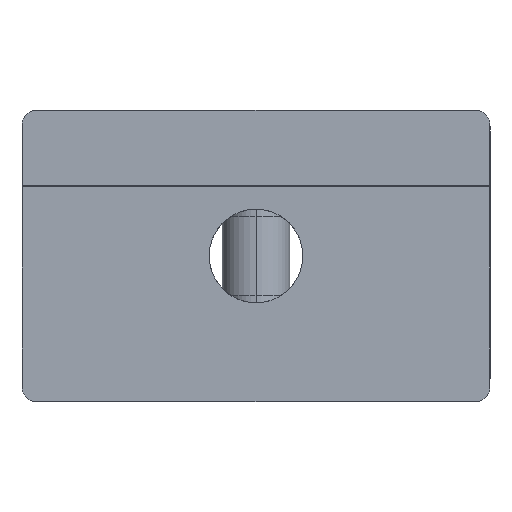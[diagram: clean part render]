
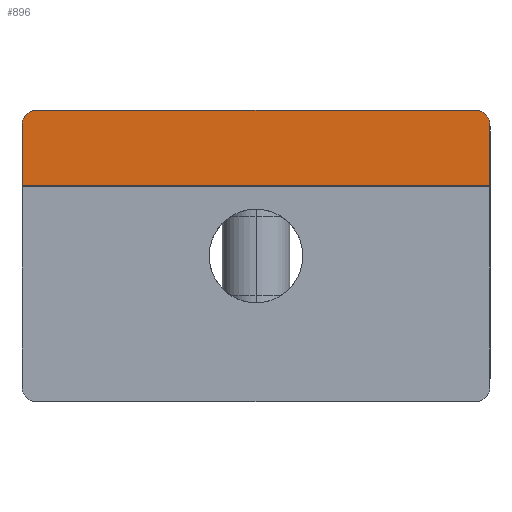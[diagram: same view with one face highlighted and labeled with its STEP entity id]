
A CAD part, left-side view. The second image highlights one B-rep face of the part: STEP entity #896.
In plain terms, the highlighted cylindrical face has radius 500000 mm (diameter 1e+06 mm), a partial arc.
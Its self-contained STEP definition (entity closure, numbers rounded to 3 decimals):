
#9 = EDGE_CURVE ( 'NONE', #1077, #1266, #2268, .T. ) ;
#34 = ORIENTED_EDGE ( 'NONE', *, *, #2528, .F. ) ;
#67 = CARTESIAN_POINT ( 'NONE',  ( -63., 21.362, 14. ) ) ;
#249 = ORIENTED_EDGE ( 'NONE', *, *, #1387, .F. ) ;
#277 = CARTESIAN_POINT ( 'NONE',  ( -63., -22.5, 12.544 ) ) ;
#412 = EDGE_CURVE ( 'NONE', #1159, #489, #3442, .T. ) ;
#488 = DIRECTION ( 'NONE',  ( 0., 0., 1. ) ) ;
#489 = VERTEX_POINT ( 'NONE', #3537 ) ;
#516 = DIRECTION ( 'NONE',  ( 0., -1., 0. ) ) ;
#596 = AXIS2_PLACEMENT_3D ( 'NONE', #1358, #516, #3579 ) ;
#671 = CARTESIAN_POINT ( 'NONE',  ( -63., -21.687, 13.919 ) ) ;
#689 = CARTESIAN_POINT ( 'NONE',  ( -63., -21.362, 14. ) ) ;
#714 = VECTOR ( 'NONE', #2981, 1000. ) ;
#743 = ORIENTED_EDGE ( 'NONE', *, *, #1014, .T. ) ;
#747 = LINE ( 'NONE', #3295, #3032 ) ;
#848 = CARTESIAN_POINT ( 'NONE',  ( -63., 22.5, 12.879 ) ) ;
#866 = CARTESIAN_POINT ( 'NONE',  ( -63., 21.957, 13.712 ) ) ;
#896 = ADVANCED_FACE ( 'NONE', ( #2673 ), #1289, .F. ) ;
#1014 = EDGE_CURVE ( 'NONE', #489, #1077, #747, .T. ) ;
#1077 = VERTEX_POINT ( 'NONE', #3497 ) ;
#1093 = VERTEX_POINT ( 'NONE', #2678 ) ;
#1111 = AXIS2_PLACEMENT_3D ( 'NONE', #3114, #1132, #3370 ) ;
#1132 = DIRECTION ( 'NONE',  ( 0., 1., 0. ) ) ;
#1159 = VERTEX_POINT ( 'NONE', #277 ) ;
#1198 = CARTESIAN_POINT ( 'NONE',  ( -63., -22.473, 12.875 ) ) ;
#1266 = VERTEX_POINT ( 'NONE', #1621 ) ;
#1289 = CYLINDRICAL_SURFACE ( 'NONE', #1975, 500000. ) ;
#1358 = CARTESIAN_POINT ( 'NONE',  ( -500063., 22.5, 0. ) ) ;
#1387 = EDGE_CURVE ( 'NONE', #1159, #2303, #1863, .T. ) ;
#1508 = CARTESIAN_POINT ( 'NONE',  ( -63., -22.364, 13.191 ) ) ;
#1516 = CARTESIAN_POINT ( 'NONE',  ( -63., -22.5, 6.75 ) ) ;
#1621 = CARTESIAN_POINT ( 'NONE',  ( -63., 22.5, 12.544 ) ) ;
#1664 = CARTESIAN_POINT ( 'NONE',  ( -63., 22.079, 13.6 ) ) ;
#1734 = CARTESIAN_POINT ( 'NONE',  ( -63., 21.676, 13.894 ) ) ;
#1863 = CIRCLE ( 'NONE', #1111, 500000. ) ;
#1864 = CARTESIAN_POINT ( 'NONE',  ( -500063., -39., 0. ) ) ;
#1955 = CARTESIAN_POINT ( 'NONE',  ( -63., 22.5, 12.544 ) ) ;
#1975 = AXIS2_PLACEMENT_3D ( 'NONE', #1864, #2729, #488 ) ;
#2029 = CARTESIAN_POINT ( 'NONE',  ( -63., -22.285, 13.336 ) ) ;
#2220 = ORIENTED_EDGE ( 'NONE', *, *, #412, .T. ) ;
#2268 = B_SPLINE_CURVE_WITH_KNOTS ( 'NONE', 3,
 ( #67, #3365, #1734, #866, #1664, #3602, #848, #1955 ),
 .UNSPECIFIED., .F., .F.,
 ( 4, 2, 2, 4 ),
 ( 0., 0., 0.001, 0.002 ),
 .UNSPECIFIED. ) ;
#2286 = ORIENTED_EDGE ( 'NONE', *, *, #9, .T. ) ;
#2303 = VERTEX_POINT ( 'NONE', #1516 ) ;
#2366 = CARTESIAN_POINT ( 'NONE',  ( -63., -21.976, 13.731 ) ) ;
#2422 = DIRECTION ( 'NONE',  ( 0., 1., 0. ) ) ;
#2461 = EDGE_CURVE ( 'NONE', #1093, #2303, #3565, .T. ) ;
#2462 = EDGE_LOOP ( 'NONE', ( #249, #2220, #743, #2286, #34, #3498 ) ) ;
#2528 = EDGE_CURVE ( 'NONE', #1093, #1266, #2984, .T. ) ;
#2673 = FACE_OUTER_BOUND ( 'NONE', #2462, .T. ) ;
#2678 = CARTESIAN_POINT ( 'NONE',  ( -63., 22.5, 6.75 ) ) ;
#2729 = DIRECTION ( 'NONE',  ( 0., 1., 0. ) ) ;
#2936 = CARTESIAN_POINT ( 'NONE',  ( -63., -22.5, 12.712 ) ) ;
#2981 = DIRECTION ( 'NONE',  ( 0., -1., 0. ) ) ;
#2984 = CIRCLE ( 'NONE', #596, 500000. ) ;
#2997 = CARTESIAN_POINT ( 'NONE',  ( -63., -39., 6.75 ) ) ;
#3032 = VECTOR ( 'NONE', #2422, 1000. ) ;
#3114 = CARTESIAN_POINT ( 'NONE',  ( -500063., -22.5, 0. ) ) ;
#3166 = CARTESIAN_POINT ( 'NONE',  ( -63., -22.5, 12.544 ) ) ;
#3295 = CARTESIAN_POINT ( 'NONE',  ( -63., -39., 14. ) ) ;
#3365 = CARTESIAN_POINT ( 'NONE',  ( -63., 21.524, 13.96 ) ) ;
#3370 = DIRECTION ( 'NONE',  ( 0., 0., 1. ) ) ;
#3442 = B_SPLINE_CURVE_WITH_KNOTS ( 'NONE', 3,
 ( #3166, #2936, #1198, #1508, #2029, #2366, #671, #689 ),
 .UNSPECIFIED., .F., .F.,
 ( 4, 2, 2, 4 ),
 ( 0., 0., 0.001, 0.002 ),
 .UNSPECIFIED. ) ;
#3497 = CARTESIAN_POINT ( 'NONE',  ( -63., 21.362, 14. ) ) ;
#3498 = ORIENTED_EDGE ( 'NONE', *, *, #2461, .T. ) ;
#3537 = CARTESIAN_POINT ( 'NONE',  ( -63., -21.362, 14. ) ) ;
#3565 = LINE ( 'NONE', #2997, #714 ) ;
#3579 = DIRECTION ( 'NONE',  ( 1., 0., 0. ) ) ;
#3602 = CARTESIAN_POINT ( 'NONE',  ( -63., 22.387, 13.205 ) ) ;
